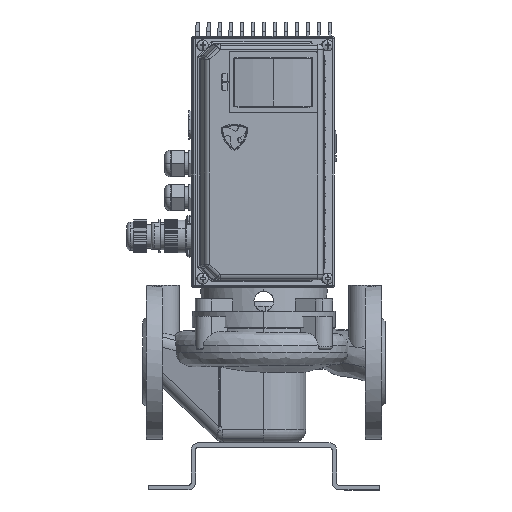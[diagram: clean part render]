
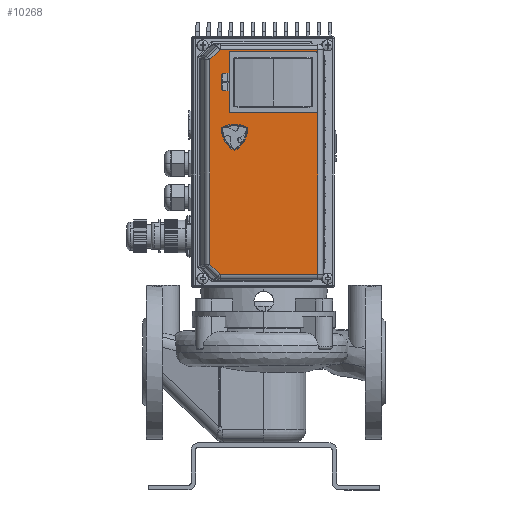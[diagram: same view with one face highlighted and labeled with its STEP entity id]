
A CAD part, left-side view. The second image highlights one B-rep face of the part: STEP entity #10268.
In plain terms, the highlighted planar face has unit normal (-1, 0, 0) as drawn and (0, 0.276, -0.961) by its records, which use the part's own axes.
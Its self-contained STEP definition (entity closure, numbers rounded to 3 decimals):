
#10268=ADVANCED_FACE('',(#21263,#21264),#21265,.F.);
#21263=FACE_BOUND('',#38924,.T.);
#21264=FACE_OUTER_BOUND('',#38925,.T.);
#21265=PLANE('',#38926);
#38924=EDGE_LOOP('',(#61931,#61932,#61933,#61934));
#38925=EDGE_LOOP('',(#61935,#61936,#61937,#61938,#61939,#61940));
#38926=AXIS2_PLACEMENT_3D('',#61941,#61942,#61943);
#61931=ORIENTED_EDGE('',*,*,#74446,.T.);
#61932=ORIENTED_EDGE('',*,*,#74447,.T.);
#61933=ORIENTED_EDGE('',*,*,#74448,.T.);
#61934=ORIENTED_EDGE('',*,*,#74449,.T.);
#61935=ORIENTED_EDGE('',*,*,#74379,.F.);
#61936=ORIENTED_EDGE('',*,*,#74415,.F.);
#61937=ORIENTED_EDGE('',*,*,#74450,.T.);
#61938=ORIENTED_EDGE('',*,*,#74338,.F.);
#61939=ORIENTED_EDGE('',*,*,#74451,.F.);
#61940=ORIENTED_EDGE('',*,*,#74452,.F.);
#61941=CARTESIAN_POINT('',(0.,10.301,61.695));
#61942=DIRECTION('',(0.0,-0.276,0.961));
#61943=DIRECTION('',(-0.0,0.961,0.276));
#74338=EDGE_CURVE('',#83581,#83583,#83584,.T.);
#74379=EDGE_CURVE('',#83650,#83652,#83653,.T.);
#74415=EDGE_CURVE('',#83700,#83650,#83702,.T.);
#74446=EDGE_CURVE('',#83738,#83739,#83740,.T.);
#74447=EDGE_CURVE('',#83739,#83741,#83742,.T.);
#74448=EDGE_CURVE('',#83741,#83743,#83744,.T.);
#74449=EDGE_CURVE('',#83743,#83738,#83745,.T.);
#74450=EDGE_CURVE('',#83700,#83583,#83746,.T.);
#74451=EDGE_CURVE('',#83747,#83581,#83748,.T.);
#74452=EDGE_CURVE('',#83652,#83747,#83749,.T.);
#83581=VERTEX_POINT('',#98874);
#83583=VERTEX_POINT('',#98876);
#83584=LINE('',#98877,#98878);
#83650=VERTEX_POINT('',#98959);
#83652=VERTEX_POINT('',#98961);
#83653=LINE('',#98962,#98963);
#83700=VERTEX_POINT('',#99017);
#83702=LINE('',#99019,#99020);
#83738=VERTEX_POINT('',#99061);
#83739=VERTEX_POINT('',#99062);
#83740=LINE('',#99063,#99064);
#83741=VERTEX_POINT('',#99065);
#83742=LINE('',#99066,#99067);
#83743=VERTEX_POINT('',#99068);
#83744=LINE('',#99069,#99070);
#83745=LINE('',#99071,#99072);
#83746=LINE('',#99073,#99074);
#83747=VERTEX_POINT('',#99075);
#83748=LINE('',#99076,#99077);
#83749=LINE('',#99078,#99079);
#98874=CARTESIAN_POINT('',(-102.0,48.307,72.593));
#98876=CARTESIAN_POINT('',(-102.0,-36.776,48.195));
#98877=CARTESIAN_POINT('',(-102.0,-27.524,50.848));
#98878=VECTOR('',#108375,1.0);
#98959=CARTESIAN_POINT('',(102.0,48.307,72.593));
#98961=CARTESIAN_POINT('',(92.929,57.378,75.194));
#98962=CARTESIAN_POINT('',(83.993,66.314,77.756));
#98963=VECTOR('',#108442,1.);
#99017=CARTESIAN_POINT('',(102.0,-36.776,48.195));
#99019=CARTESIAN_POINT('',(102.0,-27.524,50.848));
#99020=VECTOR('',#108507,1.);
#99061=CARTESIAN_POINT('',(-95.,-31.008,49.849));
#99062=CARTESIAN_POINT('',(-50.,-31.008,49.849));
#99063=CARTESIAN_POINT('',(-36.25,-31.008,49.849));
#99064=VECTOR('',#108555,1.);
#99065=CARTESIAN_POINT('',(-50.,35.319,68.868));
#99066=CARTESIAN_POINT('',(-50.,6.228,60.527));
#99067=VECTOR('',#108556,1.);
#99068=CARTESIAN_POINT('',(-95.,35.319,68.868));
#99069=CARTESIAN_POINT('',(-36.25,35.319,68.868));
#99070=VECTOR('',#108557,1.);
#99071=CARTESIAN_POINT('',(-95.,6.228,60.527));
#99072=VECTOR('',#108558,1.);
#99073=CARTESIAN_POINT('',(0.,-36.776,48.195));
#99074=VECTOR('',#108559,1.0);
#99075=CARTESIAN_POINT('',(-92.929,57.378,75.194));
#99076=CARTESIAN_POINT('',(-83.993,66.314,77.756));
#99077=VECTOR('',#108560,1.0);
#99078=CARTESIAN_POINT('',(0.,57.378,75.194));
#99079=VECTOR('',#108561,1.0);
#108375=DIRECTION('',(0.,-0.961,-0.276));
#108442=DIRECTION('',(-0.693,0.693,0.199));
#108507=DIRECTION('',(0.,0.961,0.276));
#108555=DIRECTION('',(1.0,0.,0.));
#108556=DIRECTION('',(-0.0,0.961,0.276));
#108557=DIRECTION('',(-1.0,0.,0.));
#108558=DIRECTION('',(-0.0,-0.961,-0.276));
#108559=DIRECTION('',(-1.0,0.0,0.0));
#108560=DIRECTION('',(-0.693,-0.693,-0.199));
#108561=DIRECTION('',(-1.0,0.0,0.0));
